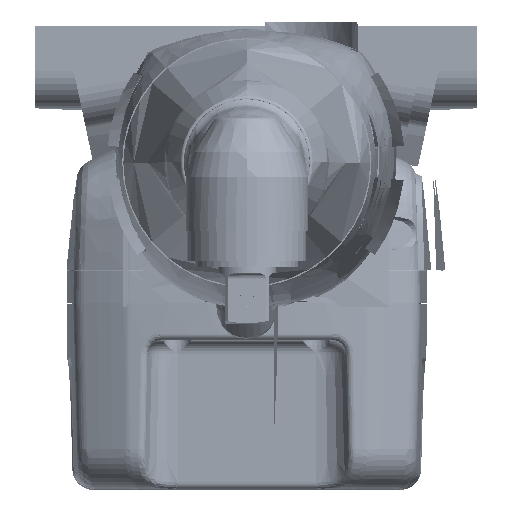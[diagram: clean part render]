
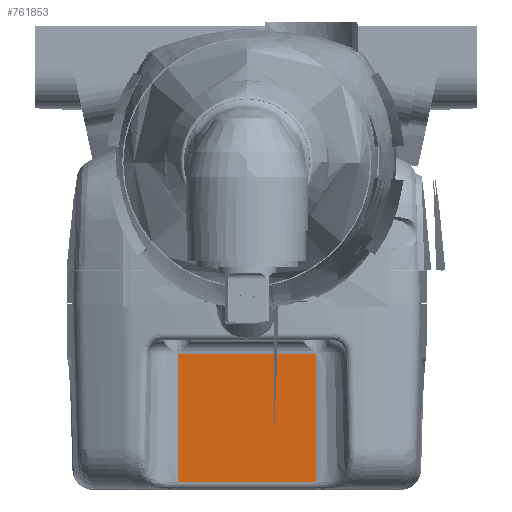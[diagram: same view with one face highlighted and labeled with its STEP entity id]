
A CAD part, top view. The second image highlights one B-rep face of the part: STEP entity #761853.
In plain terms, the highlighted planar face has unit normal (0, -0.026, 1).
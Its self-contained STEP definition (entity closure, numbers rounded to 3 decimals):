
#748208=DIRECTION('',(1.,0.,0.));
#748209=VECTOR('',#748208,0.423);
#748210=CARTESIAN_POINT('',(-15.,-38.789,
51.444));
#748211=LINE('',#748210,#748209);
#748229=DIRECTION('',(0.,-1.,
-0.026));
#748230=VECTOR('',#748229,27.877);
#748231=CARTESIAN_POINT('',(-15.,-10.921,52.173));
#748232=LINE('',#748231,#748230);
#750417=DIRECTION('',(1.,0.,0.));
#750418=VECTOR('',#750417,0.423);
#750419=CARTESIAN_POINT('',(14.577,-38.789,
51.444));
#750420=LINE('',#750419,#750418);
#750448=DIRECTION('',(0.,1.,0.026));
#750449=VECTOR('',#750448,27.877);
#750450=CARTESIAN_POINT('',(15.,-38.789,
51.444));
#750451=LINE('',#750450,#750449);
#750588=DIRECTION('',(-1.,0.,0.));
#750589=VECTOR('',#750588,30.);
#750590=CARTESIAN_POINT('',(15.,-10.921,
52.173));
#750591=LINE('',#750590,#750589);
#750726=DIRECTION('',(1.,0.,0.));
#750727=VECTOR('',#750726,29.155);
#750728=CARTESIAN_POINT('',(-14.577,-38.789,
51.444));
#750729=LINE('',#750728,#750727);
#759836=CARTESIAN_POINT('',(-15.,-38.789,
51.444));
#759837=CARTESIAN_POINT('',(-14.577,-38.789,
51.444));
#759838=VERTEX_POINT('',#759836);
#759839=VERTEX_POINT('',#759837);
#759840=CARTESIAN_POINT('',(-15.,-10.921,52.173));
#759841=VERTEX_POINT('',#759840);
#759842=CARTESIAN_POINT('',(15.,-10.921,
52.173));
#759843=VERTEX_POINT('',#759842);
#759844=CARTESIAN_POINT('',(15.,-38.789,
51.444));
#759845=VERTEX_POINT('',#759844);
#759846=CARTESIAN_POINT('',(14.577,-38.789,
51.444));
#759847=VERTEX_POINT('',#759846);
#761835=CARTESIAN_POINT('',(-399999.654,-8.,52.25));
#761836=DIRECTION('',(0.,0.026,-1.));
#761837=DIRECTION('',(0.,-1.,-0.026));
#761838=AXIS2_PLACEMENT_3D('',#761835,#761836,#761837);
#761839=PLANE('',#761838);
#761841=ORIENTED_EDGE('',*,*,#761840,.F.);
#761843=ORIENTED_EDGE('',*,*,#761842,.F.);
#761845=ORIENTED_EDGE('',*,*,#761844,.F.);
#761847=ORIENTED_EDGE('',*,*,#761846,.F.);
#761849=ORIENTED_EDGE('',*,*,#761848,.F.);
#761850=ORIENTED_EDGE('',*,*,#761825,.F.);
#761851=EDGE_LOOP('',(#761841,#761843,#761845,#761847,#761849,#761850));
#761852=FACE_OUTER_BOUND('',#761851,.F.);
#761853=ADVANCED_FACE('',(#761852),#761839,.F.);
#761825=EDGE_CURVE('',#759838,#759839,#748211,.T.);
#761840=EDGE_CURVE('',#759841,#759838,#748232,.T.);
#761842=EDGE_CURVE('',#759843,#759841,#750591,.T.);
#761844=EDGE_CURVE('',#759845,#759843,#750451,.T.);
#761846=EDGE_CURVE('',#759847,#759845,#750420,.T.);
#761848=EDGE_CURVE('',#759839,#759847,#750729,.T.);
